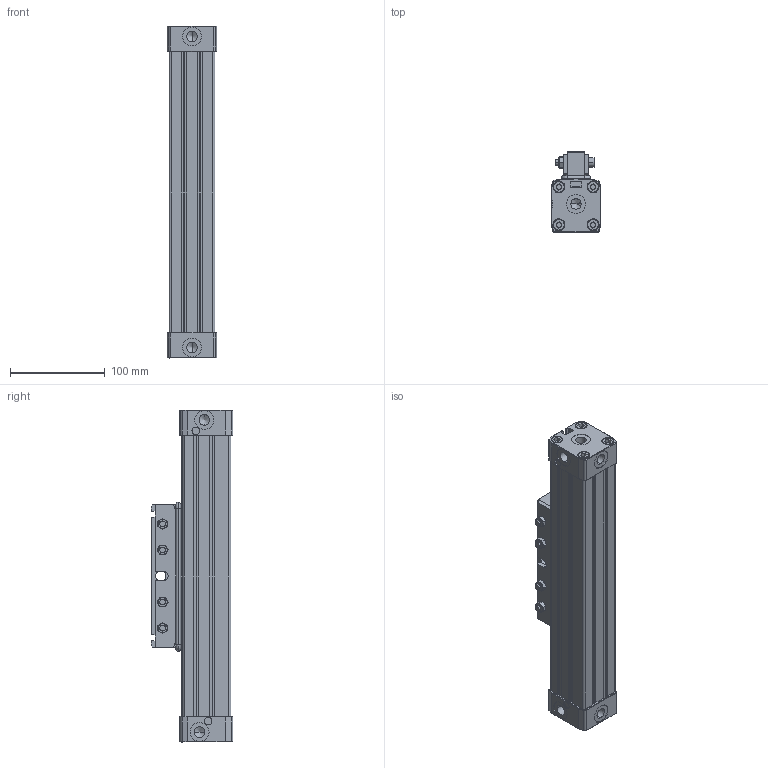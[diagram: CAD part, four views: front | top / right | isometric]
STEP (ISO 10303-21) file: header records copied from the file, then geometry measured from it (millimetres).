
FILE_DESCRIPTION (( 'STEP AP214' ), '1' );
FILE_NAME ('WRLB-032-0100 (3D).STEP', '2019-12-25T08:57:58', ( '' ), ( '' ), 'SwSTEP 2.0', 'SolidWorks 2016', '' );
FILE_SCHEMA (( 'AUTOMOTIVE_DESIGN' ));
Length unit declared in the file: millimetre
Products named in the file (3): WRLB-032-0100 (3D); Group1^WRLB-032-0100 (3D); Group2^WRLB-032-0100 (3D)
Assembly tree (2 placements, depth 2):
  WRLB-032-0100 (3D)
    Group2^WRLB-032-0100 (3D)
    Group1^WRLB-032-0100 (3D)
Bounding box: 52 x 86 x 350 mm (x, y, z)
Volume: 845152 mm3; surface area: 215162.2 mm2
Topology: 25 solids, 25 shells, 1106 faces, 2748 edges, 1751 vertices
Faces by surface type: plane 551, cylinder 331, cone 124, bspline 100
Entity records: 40006 total; most frequent: CARTESIAN_POINT 11526, ORIENTED_EDGE 5464, DIRECTION 5217, EDGE_CURVE 2732, AXIS2_PLACEMENT_3D 1774, VERTEX_POINT 1751, LINE 1669, VECTOR 1669
